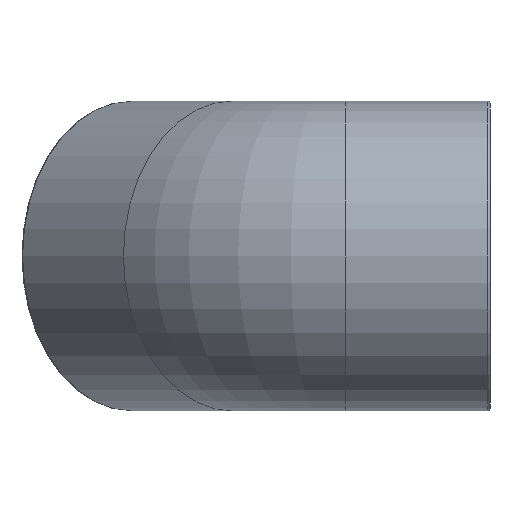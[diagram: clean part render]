
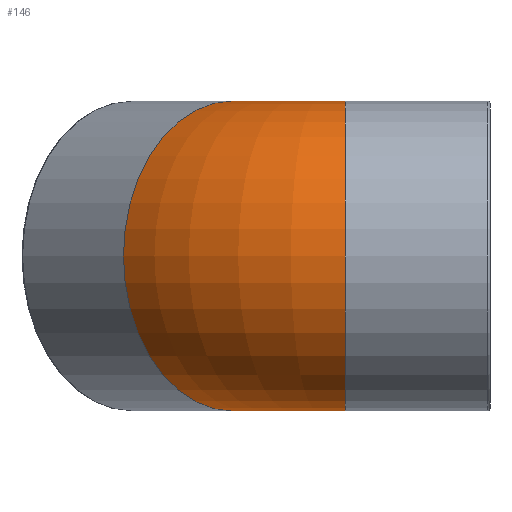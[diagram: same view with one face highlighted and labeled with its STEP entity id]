
A CAD part, left-side view. The second image highlights one B-rep face of the part: STEP entity #146.
In plain terms, the highlighted toroidal (fillet/blend) face has major radius 38.5 mm and minor radius 37.5 mm.
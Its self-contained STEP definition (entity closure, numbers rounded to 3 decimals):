
#36=FACE_BOUND('',#72,.T.);
#48=FACE_OUTER_BOUND('',#71,.T.);
#71=EDGE_LOOP('',(#129));
#72=EDGE_LOOP('',(#130));
#75=CIRCLE('',#153,37.5);
#79=CIRCLE('',#160,37.5);
#85=VERTEX_POINT('',#224);
#89=VERTEX_POINT('',#235);
#97=EDGE_CURVE('',#85,#85,#75,.T.);
#101=EDGE_CURVE('',#89,#89,#79,.T.);
#129=ORIENTED_EDGE('',*,*,#101,.F.);
#130=ORIENTED_EDGE('',*,*,#97,.T.);
#134=TOROIDAL_SURFACE('',#170,38.5,37.5);
#146=ADVANCED_FACE('',(#48,#36),#134,.T.);
#153=AXIS2_PLACEMENT_3D('',#225,#181,#182);
#160=AXIS2_PLACEMENT_3D('',#236,#195,#196);
#170=AXIS2_PLACEMENT_3D('',#383,#215,#216);
#181=DIRECTION('center_axis',(0.,1.,0.));
#182=DIRECTION('ref_axis',(1.,0.,0.));
#195=DIRECTION('center_axis',(0.707,0.707,0.));
#196=DIRECTION('ref_axis',(0.707,-0.707,0.));
#215=DIRECTION('center_axis',(0.,0.,-1.));
#216=DIRECTION('ref_axis',(-1.,0.,0.));
#224=CARTESIAN_POINT('',(-37.5,35.053,0.));
#225=CARTESIAN_POINT('Origin',(0.,35.053,0.));
#235=CARTESIAN_POINT('',(-15.24,88.793,0.));
#236=CARTESIAN_POINT('Origin',(11.276,62.276,0.));
#383=CARTESIAN_POINT('Origin',(38.5,35.053,0.));
